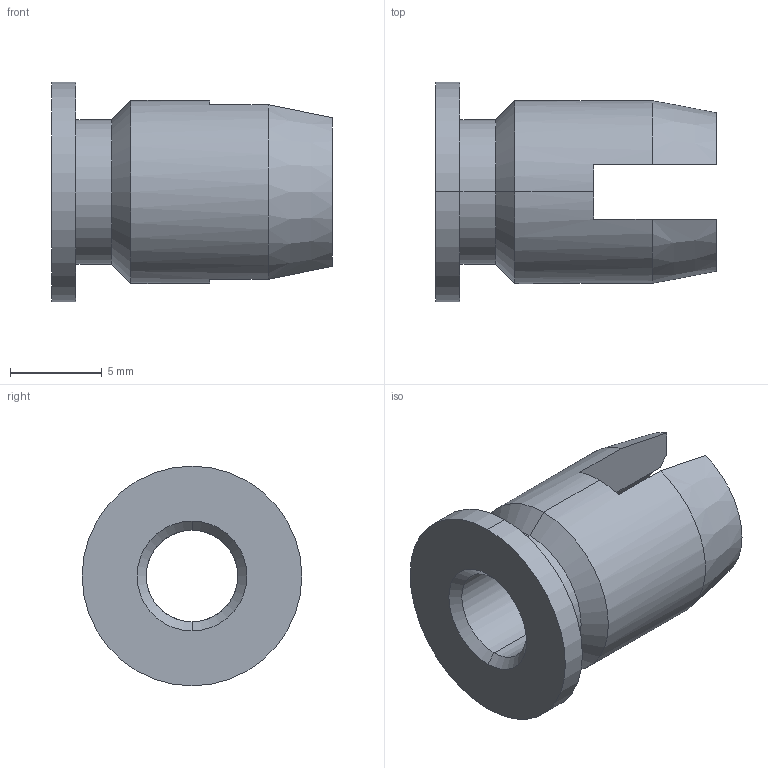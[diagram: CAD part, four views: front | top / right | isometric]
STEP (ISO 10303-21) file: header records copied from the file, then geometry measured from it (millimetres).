
FILE_DESCRIPTION (( 'STEP AP203' ), '1' );
FILE_NAME ('FSUK-SCRH-M06.STEP', '2021-06-16T12:12:44', ( '' ), ( '' ), 'SwSTEP 2.0', 'SolidWorks 2021', '' );
FILE_SCHEMA (( 'CONFIG_CONTROL_DESIGN' ));
Length unit declared in the file: millimetre
Products named in the file (1): FSUK-SCRH-M06
Bounding box: 15.32 x 12 x 12 mm (x, y, z)
Volume: 738.9 mm3; surface area: 899 mm2
Topology: 1 solids, 1 shells, 26 faces, 66 edges, 42 vertices
Faces by surface type: plane 10, cone 8, cylinder 8
Entity records: 881 total; most frequent: CARTESIAN_POINT 159, DIRECTION 142, ORIENTED_EDGE 132, EDGE_CURVE 66, AXIS2_PLACEMENT_3D 57, VERTEX_POINT 42, CIRCLE 30, LINE 28
